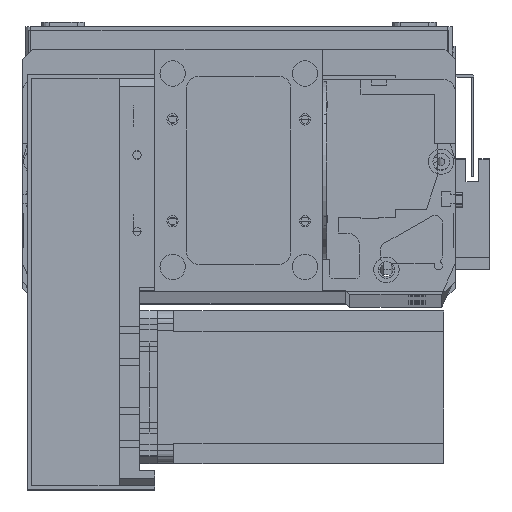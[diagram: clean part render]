
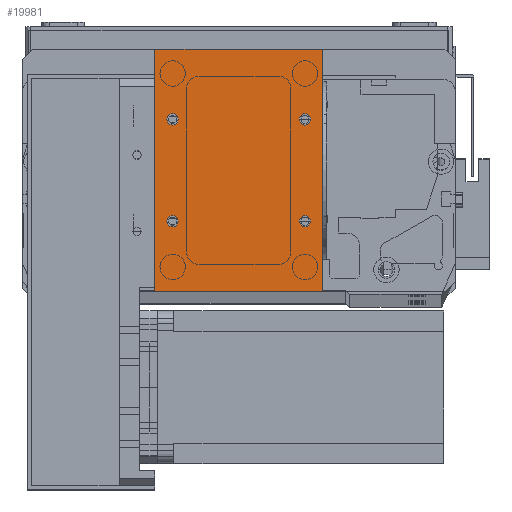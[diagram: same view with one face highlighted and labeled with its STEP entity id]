
A CAD part, top view. The second image highlights one B-rep face of the part: STEP entity #19981.
In plain terms, the highlighted planar face has unit normal (0, 0, 1).
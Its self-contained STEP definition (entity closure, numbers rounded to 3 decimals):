
#2220 = VERTEX_POINT ( 'NONE', #11954 ) ;
#2276 = FACE_BOUND ( 'NONE', #8140, .T. ) ;
#2383 = VERTEX_POINT ( 'NONE', #18278 ) ;
#2431 = EDGE_LOOP ( 'NONE', ( #20102, #28673 ) ) ;
#3756 = EDGE_CURVE ( 'NONE', #2220, #15406, #28971, .T. ) ;
#4521 = ORIENTED_EDGE ( 'NONE', *, *, #27365, .F. ) ;
#4810 = LINE ( 'NONE', #29055, #11159 ) ;
#5019 = CARTESIAN_POINT ( 'NONE',  ( 4.75, 27.5, 2. ) ) ;
#5062 = CARTESIAN_POINT ( 'NONE',  ( 59., 27.5, 2. ) ) ;
#5070 = AXIS2_PLACEMENT_3D ( 'NONE', #27727, #11822, #30271 ) ;
#5081 = ORIENTED_EDGE ( 'NONE', *, *, #7231, .T. ) ;
#5848 = CIRCLE ( 'NONE', #11336, 2.25 ) ;
#6124 = EDGE_CURVE ( 'NONE', #13351, #11382, #21431, .T. ) ;
#6176 = DIRECTION ( 'NONE',  ( 0., 0., 1. ) ) ;
#6200 = FACE_BOUND ( 'NONE', #15138, .T. ) ;
#6319 = DIRECTION ( 'NONE',  ( 0., 0., 1. ) ) ;
#7231 = EDGE_CURVE ( 'NONE', #11552, #13351, #12987, .T. ) ;
#7671 = CARTESIAN_POINT ( 'NONE',  ( 7., 27.5, 2. ) ) ;
#7762 = CARTESIAN_POINT ( 'NONE',  ( 56.75, 67.5, 2. ) ) ;
#7814 = DIRECTION ( 'NONE',  ( 1., 0., 0. ) ) ;
#8140 = EDGE_LOOP ( 'NONE', ( #30108, #34177 ) ) ;
#8187 = ORIENTED_EDGE ( 'NONE', *, *, #9241, .T. ) ;
#8288 = AXIS2_PLACEMENT_3D ( 'NONE', #13786, #27110, #11152 ) ;
#8355 = ORIENTED_EDGE ( 'NONE', *, *, #23622, .T. ) ;
#8459 = CIRCLE ( 'NONE', #21939, 2.25 ) ;
#8761 = EDGE_LOOP ( 'NONE', ( #11595, #27384 ) ) ;
#8807 = VERTEX_POINT ( 'NONE', #9405 ) ;
#9241 = EDGE_CURVE ( 'NONE', #8807, #11552, #4810, .T. ) ;
#9405 = CARTESIAN_POINT ( 'NONE',  ( 66., 95., 2. ) ) ;
#9902 = DIRECTION ( 'NONE',  ( 0., 1., 0. ) ) ;
#10030 = CARTESIAN_POINT ( 'NONE',  ( 4.75, 67.5, 2. ) ) ;
#10382 = DIRECTION ( 'NONE',  ( 1., 0., 0. ) ) ;
#11145 = CARTESIAN_POINT ( 'NONE',  ( 0., 0., 2. ) ) ;
#11152 = DIRECTION ( 'NONE',  ( -1., 0., 0. ) ) ;
#11159 = VECTOR ( 'NONE', #25163, 1000. ) ;
#11336 = AXIS2_PLACEMENT_3D ( 'NONE', #12763, #31139, #15491 ) ;
#11382 = VERTEX_POINT ( 'NONE', #18974 ) ;
#11552 = VERTEX_POINT ( 'NONE', #16151 ) ;
#11595 = ORIENTED_EDGE ( 'NONE', *, *, #29449, .F. ) ;
#11681 = DIRECTION ( 'NONE',  ( 1., 0., 0. ) ) ;
#11805 = DIRECTION ( 'NONE',  ( 0., 0., 1. ) ) ;
#11822 = DIRECTION ( 'NONE',  ( 0., 0., 1. ) ) ;
#11920 = CARTESIAN_POINT ( 'NONE',  ( 7., 67.5, 2. ) ) ;
#11954 = CARTESIAN_POINT ( 'NONE',  ( 9.25, 67.5, 2. ) ) ;
#12207 = VERTEX_POINT ( 'NONE', #5019 ) ;
#12649 = VECTOR ( 'NONE', #28043, 1000. ) ;
#12763 = CARTESIAN_POINT ( 'NONE',  ( 7., 27.5, 2. ) ) ;
#12820 = DIRECTION ( 'NONE',  ( 0., 0., 1. ) ) ;
#12907 = VERTEX_POINT ( 'NONE', #18101 ) ;
#12987 = LINE ( 'NONE', #22043, #32223 ) ;
#13351 = VERTEX_POINT ( 'NONE', #11145 ) ;
#13786 = CARTESIAN_POINT ( 'NONE',  ( 0., 0., 2. ) ) ;
#14893 = ORIENTED_EDGE ( 'NONE', *, *, #6124, .T. ) ;
#15138 = EDGE_LOOP ( 'NONE', ( #15307, #4521 ) ) ;
#15307 = ORIENTED_EDGE ( 'NONE', *, *, #18936, .F. ) ;
#15370 = CARTESIAN_POINT ( 'NONE',  ( 66., 0., 2. ) ) ;
#15382 = EDGE_CURVE ( 'NONE', #22337, #12207, #5848, .T. ) ;
#15406 = VERTEX_POINT ( 'NONE', #10030 ) ;
#15491 = DIRECTION ( 'NONE',  ( 1., 0., 0. ) ) ;
#16151 = CARTESIAN_POINT ( 'NONE',  ( 0., 95., 2. ) ) ;
#16597 = CARTESIAN_POINT ( 'NONE',  ( 9.25, 27.5, 2. ) ) ;
#17912 = VERTEX_POINT ( 'NONE', #7762 ) ;
#17927 = AXIS2_PLACEMENT_3D ( 'NONE', #11920, #11805, #11681 ) ;
#18101 = CARTESIAN_POINT ( 'NONE',  ( 61.25, 67.5, 2. ) ) ;
#18278 = CARTESIAN_POINT ( 'NONE',  ( 56.75, 27.5, 2. ) ) ;
#18472 = CIRCLE ( 'NONE', #30007, 2.25 ) ;
#18936 = EDGE_CURVE ( 'NONE', #33213, #2383, #27551, .T. ) ;
#18974 = CARTESIAN_POINT ( 'NONE',  ( 66., 0., 2. ) ) ;
#19010 = VECTOR ( 'NONE', #9902, 1000. ) ;
#19464 = EDGE_LOOP ( 'NONE', ( #5081, #14893, #8355, #8187 ) ) ;
#19981 = ADVANCED_FACE ( 'NONE', ( #2276, #20513, #6200, #26676, #33418 ), #24497, .F. ) ;
#20102 = ORIENTED_EDGE ( 'NONE', *, *, #15382, .F. ) ;
#20513 = FACE_BOUND ( 'NONE', #8761, .T. ) ;
#21431 = LINE ( 'NONE', #28386, #12649 ) ;
#21786 = AXIS2_PLACEMENT_3D ( 'NONE', #22385, #6319, #25066 ) ;
#21819 = DIRECTION ( 'NONE',  ( 0., -1., 0. ) ) ;
#21939 = AXIS2_PLACEMENT_3D ( 'NONE', #28677, #12820, #31180 ) ;
#22043 = CARTESIAN_POINT ( 'NONE',  ( 0., 0., 2. ) ) ;
#22260 = CARTESIAN_POINT ( 'NONE',  ( 59., 67.5, 2. ) ) ;
#22337 = VERTEX_POINT ( 'NONE', #16597 ) ;
#22385 = CARTESIAN_POINT ( 'NONE',  ( 59., 67.5, 2. ) ) ;
#23622 = EDGE_CURVE ( 'NONE', #11382, #8807, #33615, .T. ) ;
#23872 = DIRECTION ( 'NONE',  ( 0., 0., 1. ) ) ;
#24480 = CARTESIAN_POINT ( 'NONE',  ( 61.25, 27.5, 2. ) ) ;
#24497 = PLANE ( 'NONE',  #8288 ) ;
#24910 = DIRECTION ( 'NONE',  ( 1., 0., 0. ) ) ;
#25066 = DIRECTION ( 'NONE',  ( 1., 0., 0. ) ) ;
#25163 = DIRECTION ( 'NONE',  ( -1., 0., 0. ) ) ;
#25559 = AXIS2_PLACEMENT_3D ( 'NONE', #22260, #6176, #24910 ) ;
#26321 = CIRCLE ( 'NONE', #21786, 2.25 ) ;
#26393 = DIRECTION ( 'NONE',  ( 0., 0., 1. ) ) ;
#26676 = FACE_BOUND ( 'NONE', #2431, .T. ) ;
#27110 = DIRECTION ( 'NONE',  ( 0., 0., -1. ) ) ;
#27365 = EDGE_CURVE ( 'NONE', #2383, #33213, #8459, .T. ) ;
#27384 = ORIENTED_EDGE ( 'NONE', *, *, #30117, .F. ) ;
#27551 = CIRCLE ( 'NONE', #31066, 2.25 ) ;
#27727 = CARTESIAN_POINT ( 'NONE',  ( 7., 67.5, 2. ) ) ;
#28043 = DIRECTION ( 'NONE',  ( 1., 0., 0. ) ) ;
#28386 = CARTESIAN_POINT ( 'NONE',  ( 0., 0., 2. ) ) ;
#28673 = ORIENTED_EDGE ( 'NONE', *, *, #29683, .F. ) ;
#28677 = CARTESIAN_POINT ( 'NONE',  ( 59., 27.5, 2. ) ) ;
#28971 = CIRCLE ( 'NONE', #17927, 2.25 ) ;
#29055 = CARTESIAN_POINT ( 'NONE',  ( 0., 95., 2. ) ) ;
#29449 = EDGE_CURVE ( 'NONE', #12907, #17912, #32691, .T. ) ;
#29499 = EDGE_CURVE ( 'NONE', #15406, #2220, #31112, .T. ) ;
#29683 = EDGE_CURVE ( 'NONE', #12207, #22337, #18472, .T. ) ;
#30007 = AXIS2_PLACEMENT_3D ( 'NONE', #7671, #26393, #10382 ) ;
#30108 = ORIENTED_EDGE ( 'NONE', *, *, #3756, .F. ) ;
#30117 = EDGE_CURVE ( 'NONE', #17912, #12907, #26321, .T. ) ;
#30271 = DIRECTION ( 'NONE',  ( 1., 0., 0. ) ) ;
#31066 = AXIS2_PLACEMENT_3D ( 'NONE', #5062, #23872, #7814 ) ;
#31112 = CIRCLE ( 'NONE', #5070, 2.25 ) ;
#31139 = DIRECTION ( 'NONE',  ( 0., 0., 1. ) ) ;
#31180 = DIRECTION ( 'NONE',  ( 1., 0., 0. ) ) ;
#32223 = VECTOR ( 'NONE', #21819, 1000. ) ;
#32691 = CIRCLE ( 'NONE', #25559, 2.25 ) ;
#33213 = VERTEX_POINT ( 'NONE', #24480 ) ;
#33418 = FACE_OUTER_BOUND ( 'NONE', #19464, .T. ) ;
#33615 = LINE ( 'NONE', #15370, #19010 ) ;
#34177 = ORIENTED_EDGE ( 'NONE', *, *, #29499, .F. ) ;
